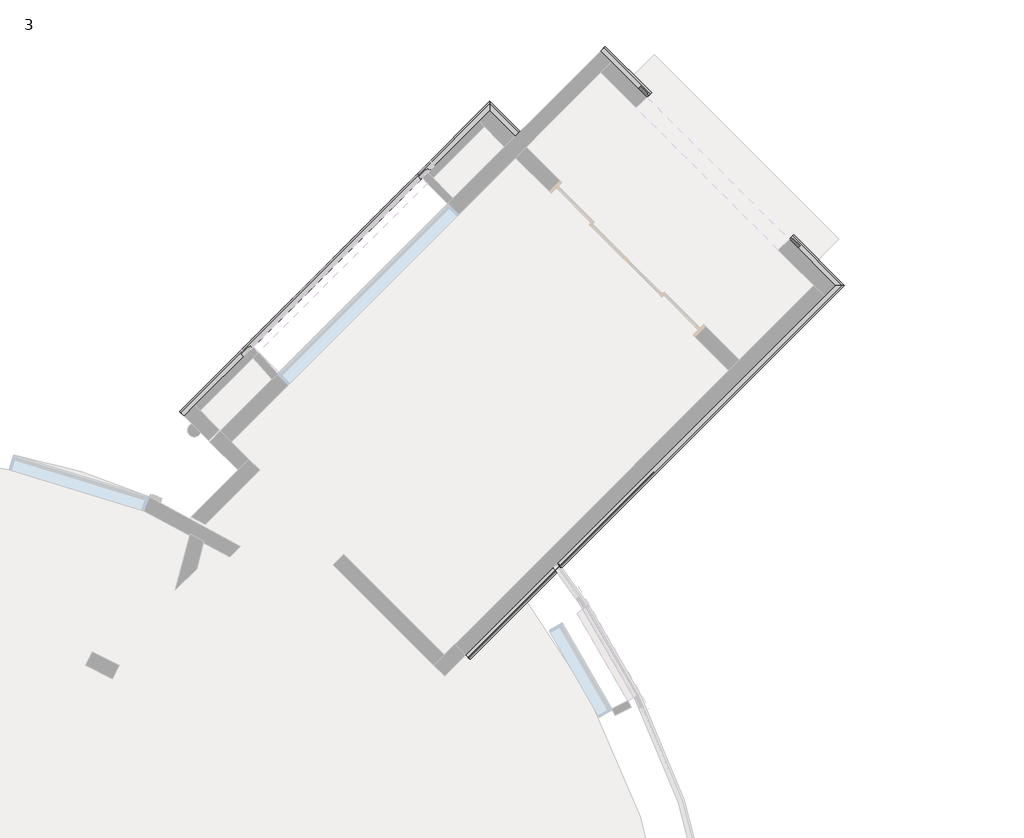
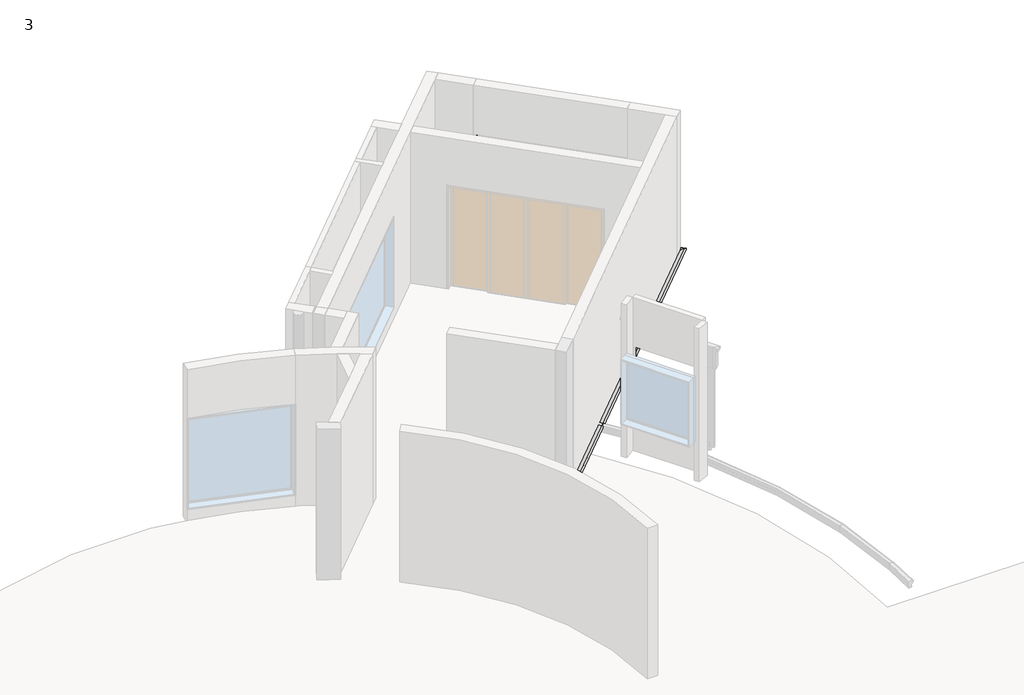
# One storey, part 12 of 12: 3 proxies.
"""IFC4 building model written with IfcOpenShell, lengths in millimetres."""

from ifc_helpers import new_model, si_unit, frame, origin, place, context, project, spatial, polyline, circle_curve, ellipse_curve, outline, extrude, element, save
from ifc_brep_helpers import plane_surface, cylinder_surface, revolved_surface, advanced_brep

model = new_model("IFC4")

# Units and contexts
model_context = context("Model", 3, world=origin())
ifc_project = project(units=[si_unit("LENGTHUNIT", "METRE", prefix="MILLI")], contexts=[model_context])

# Site, building, storey
site = spatial("IfcSite", under=ifc_project)
building = spatial("IfcBuilding", under=site)
storey = spatial("IfcBuildingStorey", under=building, Name="3", Elevation=3581.4)

# Proxies
placement = place(None, origin())
element("IfcBuildingElementProxy", 1, Name="Cornice", ObjectType="Cornice", at=placement, inside=storey, context=model_context, shape_type="SweptSolid", body=[
    extrude(outline(polyline([(2787.1660726, 15309.7245365), (2823.087097, 15345.645561), (2930.8501705, 15237.8824876), (2921.8699144, 15228.9022315), (2944.3205547, 15206.4515912), (2917.3797863, 15179.5108228), (2787.1660726, 15309.7245365)])), frame((0.0, 0.0, 3581.4), z_axis=(0.0, 0.0, 1.0), x_axis=(1.0, 0.0, 0.0)), (0.0, 0.0, 1.0), 2463.8),
])
element("IfcBuildingElementProxy", 2, Name="Cornice", ObjectType="Cornice", at=placement, inside=storey, context=model_context, shape_type="SweptSolid", body=[
    extrude(outline(polyline([(5202.8549691, 12894.03564), (5072.6412554, 13024.2493537), (5099.5820237, 13051.1901221), (5122.032664, 13028.7394818), (5131.0129202, 13037.7197379), (5238.7759936, 12929.9566645), (5202.8549691, 12894.03564)])), frame((0.0, 0.0, 3581.4), z_axis=(0.0, 0.0, 1.0), x_axis=(1.0, 0.0, 0.0)), (0.0, 0.0, 1.0), 2438.4),
])
element("IfcBuildingElementProxy", 3, Name="Cornice 3", ObjectType="Cornice 3", at=placement, inside=storey, context=model_context, shape_type="AdvancedBrep", body=[
    advanced_brep(
    [(5880.8643063, 12323.7893763, 3886.2), (5880.8643063, 12323.7893763, 3841.75), (5880.8643063, 12323.7893763, 3826.7009114), (5855.0460699, 12323.7893763, 3797.3), (5844.9432818, 12323.7893763, 3797.3), (5844.9432818, 12323.7893763, 3771.9), (5844.9432818, 12323.7893763, 3752.85), (5844.9432818, 12323.7893763, 3733.8), (5773.1012328, 12323.7893763, 3733.8), (5773.1012328, 12323.7893763, 3886.2), (223.9513989, 6666.876469, 3886.2), (170.0698622, 6720.7580057, 3886.2), (170.0698622, 6720.7580057, 3733.8), (205.9908867, 6684.8369812, 3733.8), (205.9908867, 6684.8369812, 3752.85), (205.9908867, 6684.8369812, 3771.9), (205.9908867, 6684.8369812, 3797.3), (211.0422808, 6679.7855871, 3797.3), (223.9513989, 6666.876469, 3826.7009114), (223.9513989, 6666.876469, 3841.75)],
    [
        (0, 1, ellipse_curve(frame((5880.8643063, 12323.7893763, 3863.975), z_axis=(0.0, 1.0, 0.0), x_axis=(1.0, 0.0, 0.0)), 31.4308964, 22.225)),
        (1, 2),
        (2, 3, ellipse_curve(frame((5885.4695492, 12323.7893763, 3804.3103895), z_axis=(0.0, -1.0, 0.0), x_axis=(-1.0, 0.0, 0.0)), 31.9981126, 22.6260824)),
        (3, 4),
        (4, 5),
        (5, 6, ellipse_curve(frame((5844.9432818, 12323.7893763, 3762.375), z_axis=(0.0, 1.0, 0.0), x_axis=(1.0, 0.0, 0.0)), 13.4703842, 9.525)),
        (6, 7),
        (7, 8),
        (8, 9),
        (9, 0),
        (10, 11),
        (11, 12),
        (12, 13),
        (13, 14),
        (14, 15, circle_curve(frame((205.9908867, 6684.8369812, 3762.375), z_axis=(-0.7071067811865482, -0.7071067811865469, 0.0), x_axis=(-0.7071067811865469, 0.7071067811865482, 0.0)), 9.525)),
        (15, 16),
        (16, 17),
        (17, 18, circle_curve(frame((226.2540204, 6664.5738475, 3804.3103895), z_axis=(0.7071067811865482, 0.7071067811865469, 0.0), x_axis=(-0.7071067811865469, 0.7071067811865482, 0.0)), 22.6260824)),
        (18, 19),
        (19, 10, circle_curve(frame((223.9513989, 6666.876469, 3863.975), z_axis=(-0.7071067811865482, -0.7071067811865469, 0.0), x_axis=(-0.7071067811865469, 0.7071067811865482, 0.0)), 22.225)),
        (0, 10),
        (19, 1),
        (18, 2),
        (17, 3),
        (16, 4),
        (15, 5),
        (14, 6),
        (13, 7),
        (12, 8),
        (11, 9),
    ],
    [
        plane_surface(frame((5773.1012328, 12323.7893763, 4038.6), z_axis=(0.0, 1.0, 0.0), x_axis=(-1.0, 0.0, 0.0))),
        plane_surface(frame((170.0698622, 6720.7580057, 3560.831793), z_axis=(-0.7071067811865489, -0.7071067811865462, 0.0), x_axis=(0.7071067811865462, -0.7071067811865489, 0.0))),
        cylinder_surface(frame((5826.9827695, 12269.9078396, 3863.975), z_axis=(0.7071067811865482, 0.7071067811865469, 0.0), x_axis=(-0.7071067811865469, 0.7071067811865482, 0.0)), 22.225),
        plane_surface(frame((5880.8643063, 12323.7893763, 3841.75), z_axis=(0.7071067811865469, -0.7071067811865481, 0.0), x_axis=(-0.7071067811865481, -0.7071067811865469, 0.0))),
        revolved_surface(polyline([(210.25496410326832, 6680.5729037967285, 3804.3103895), (5885.469549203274, 12355.787488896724, 3804.3103895)]), (5829.285391, 12267.6052181, 3804.3103895), (-0.7071067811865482, -0.7071067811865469, 0.0)),
        plane_surface(frame((5855.0460699, 12323.7893763, 3797.3), z_axis=(0.0, 0.0, -1.0), x_axis=(-0.7071067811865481, -0.7071067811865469, 0.0))),
        plane_surface(frame((5844.9432818, 12323.7893763, 3797.3), z_axis=(0.7071067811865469, -0.7071067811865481, 0.0), x_axis=(-0.7071067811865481, -0.7071067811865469, 0.0))),
        cylinder_surface(frame((5809.0222573, 12287.8683518, 3762.375), z_axis=(0.7071067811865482, 0.7071067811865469, 0.0), x_axis=(-0.7071067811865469, 0.7071067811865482, 0.0)), 9.525),
        plane_surface(frame((5844.9432818, 12323.7893763, 3752.85), z_axis=(0.7071067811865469, -0.7071067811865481, 0.0), x_axis=(-0.7071067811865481, -0.7071067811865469, 0.0))),
        plane_surface(frame((5844.9432818, 12323.7893763, 3733.8), z_axis=(0.0, 0.0, -1.0000000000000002), x_axis=(-0.7071067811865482, -0.707106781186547, 0.0))),
        plane_surface(frame((5773.1012328, 12323.7893763, 3733.8), z_axis=(-0.7071067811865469, 0.7071067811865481, 0.0), x_axis=(-0.7071067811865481, -0.7071067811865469, 0.0))),
        plane_surface(frame((5773.1012328, 12323.7893763, 3886.2), z_axis=(0.0, 0.0, 1.0), x_axis=(-0.7071067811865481, -0.7071067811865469, 0.0))),
    ],
    [
        (0, [[1, 2, 3, 4, 5, 6, 7, 8, 9, 10]]),
        (1, [[11, 12, 13, 14, 15, 16, 17, 18, 19, 20]]),
        (2, [[-1, 21, -20, 22]]),
        (3, [[-2, -22, -19, 23]]),
        (4, [[-3, -23, -18, 24]]),
        (5, [[-4, -24, -17, 25]]),
        (6, [[-5, -25, -16, 26]]),
        (7, [[-6, -26, -15, 27]]),
        (8, [[-7, -27, -14, 28]]),
        (9, [[-8, -28, -13, 29]]),
        (10, [[-9, -29, -12, 30]]),
        (11, [[-10, -30, -11, -21]]),
    ],
),
    advanced_brep(
    [(5126.5227921, 13078.1308905, 3886.2), (5126.5227921, 13078.1308905, 3841.75), (5126.5227921, 13078.1308905, 3826.7009114), (5113.6136739, 13065.2217723, 3797.3), (5108.5622799, 13060.1703782, 3797.3), (5108.5622799, 13060.1703782, 3771.9), (5108.5622799, 13060.1703782, 3752.85), (5108.5622799, 13060.1703782, 3733.8), (5072.6412554, 13024.2493537, 3733.8), (5072.6412554, 13024.2493537, 3886.2), (5880.8643063, 12323.7893763, 3886.2), (5773.1012328, 12323.7893763, 3886.2), (5773.1012328, 12323.7893763, 3733.8), (5844.9432818, 12323.7893763, 3733.8), (5844.9432818, 12323.7893763, 3752.85), (5844.9432818, 12323.7893763, 3771.9), (5844.9432818, 12323.7893763, 3797.3), (5855.0460699, 12323.7893763, 3797.3), (5880.8643063, 12323.7893763, 3826.7009114), (5880.8643063, 12323.7893763, 3841.75)],
    [
        (0, 1, circle_curve(frame((5126.5227921, 13078.1308905, 3863.975), z_axis=(-0.7071067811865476, 0.7071067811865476, 0.0), x_axis=(-0.7071067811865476, -0.7071067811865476, 0.0)), 22.225)),
        (1, 2),
        (2, 3, circle_curve(frame((5128.8254135, 13080.4335119, 3804.3103895), z_axis=(0.7071067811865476, -0.7071067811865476, 0.0), x_axis=(-0.7071067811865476, -0.7071067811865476, 0.0)), 22.6260824)),
        (3, 4),
        (4, 5),
        (5, 6, circle_curve(frame((5108.5622799, 13060.1703782, 3762.375), z_axis=(-0.7071067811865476, 0.7071067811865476, 0.0), x_axis=(-0.7071067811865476, -0.7071067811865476, 0.0)), 9.525)),
        (6, 7),
        (7, 8),
        (8, 9),
        (9, 0),
        (10, 11),
        (11, 12),
        (12, 13),
        (13, 14),
        (14, 15, ellipse_curve(frame((5844.9432818, 12323.7893763, 3762.375), z_axis=(0.0, -1.0, 0.0), x_axis=(-1.0, 0.0, 0.0)), 13.4703842, 9.525)),
        (15, 16),
        (16, 17),
        (17, 18, ellipse_curve(frame((5885.4695492, 12323.7893763, 3804.3103895), z_axis=(0.0, 1.0, 0.0), x_axis=(1.0, 0.0, 0.0)), 31.9981126, 22.6260824)),
        (18, 19),
        (19, 10, ellipse_curve(frame((5880.8643063, 12323.7893763, 3863.975), z_axis=(0.0, -1.0, 0.0), x_axis=(-1.0, 0.0, 0.0)), 31.4308964, 22.225)),
        (0, 10),
        (19, 1),
        (18, 2),
        (17, 3),
        (16, 4),
        (15, 5),
        (14, 6),
        (13, 7),
        (12, 8),
        (11, 9),
    ],
    [
        plane_surface(frame((5072.6412554, 13024.2493537, 3560.831793), z_axis=(-0.7071067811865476, 0.7071067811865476, 0.0), x_axis=(0.7071067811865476, 0.7071067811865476, 0.0))),
        plane_surface(frame((5773.1012328, 12323.7893763, 4038.6), z_axis=(0.0, -1.0, 0.0), x_axis=(-1.0, 0.0, 0.0))),
        cylinder_surface(frame((5126.5227921, 13078.1308905, 3863.975), z_axis=(-0.7071067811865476, 0.7071067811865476, 0.0), x_axis=(-0.7071067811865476, -0.7071067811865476, 0.0)), 22.225),
        plane_surface(frame((5126.5227921, 13078.1308905, 3841.75), z_axis=(0.7071067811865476, 0.7071067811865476, 0.0), x_axis=(0.7071067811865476, -0.7071067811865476, 0.0))),
        revolved_surface(polyline([(5885.469549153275, 12291.791263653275, 3804.3103895), (5112.826357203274, 13064.434455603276, 3804.3103895)]), (5128.8254135, 13080.4335119, 3804.3103895), (0.7071067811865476, -0.7071067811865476, 0.0)),
        plane_surface(frame((5113.6136739, 13065.2217723, 3797.3), z_axis=(0.0, 0.0, -1.0000000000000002), x_axis=(0.7071067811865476, -0.7071067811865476, 0.0))),
        plane_surface(frame((5108.5622799, 13060.1703782, 3797.3), z_axis=(0.7071067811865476, 0.7071067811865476, 0.0), x_axis=(0.7071067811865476, -0.7071067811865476, 0.0))),
        cylinder_surface(frame((5108.5622799, 13060.1703782, 3762.375), z_axis=(-0.7071067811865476, 0.7071067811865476, 0.0), x_axis=(-0.7071067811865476, -0.7071067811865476, 0.0)), 9.525),
        plane_surface(frame((5108.5622799, 13060.1703782, 3752.85), z_axis=(0.7071067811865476, 0.7071067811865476, 0.0), x_axis=(0.7071067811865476, -0.7071067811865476, 0.0))),
        plane_surface(frame((5108.5622799, 13060.1703782, 3733.8), z_axis=(0.0, 0.0, -1.0), x_axis=(0.7071067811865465, -0.7071067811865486, 0.0))),
        plane_surface(frame((5072.6412554, 13024.2493537, 3733.8), z_axis=(-0.7071067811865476, -0.7071067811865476, 0.0), x_axis=(0.7071067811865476, -0.7071067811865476, 0.0))),
        plane_surface(frame((5072.6412554, 13024.2493537, 3886.2), z_axis=(0.0, 0.0, 1.0000000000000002), x_axis=(0.7071067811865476, -0.7071067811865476, 0.0))),
    ],
    [
        (0, [[1, 2, 3, 4, 5, 6, 7, 8, 9, 10]]),
        (1, [[11, 12, 13, 14, 15, 16, 17, 18, 19, 20]]),
        (2, [[-1, 21, -20, 22]]),
        (3, [[-2, -22, -19, 23]]),
        (4, [[-3, -23, -18, 24]]),
        (5, [[-4, -24, -17, 25]]),
        (6, [[-5, -25, -16, 26]]),
        (7, [[-6, -26, -15, 27]]),
        (8, [[-7, -27, -14, 28]]),
        (9, [[-8, -28, -13, 29]]),
        (10, [[-9, -29, -12, 30]]),
        (11, [[-10, -30, -11, -21]]),
    ],
),
    advanced_brep(
    [(2270.8013456, 15933.852337, 3886.2), (2270.8013456, 15933.852337, 3841.75), (2270.8013456, 15933.852337, 3826.7009114), (2257.8922274, 15920.9432188, 3797.3), (2252.8408334, 15915.8918247, 3797.3), (2252.8408334, 15915.8918247, 3771.9), (2252.8408334, 15915.8918247, 3752.85), (2252.8408334, 15915.8918247, 3733.8), (2216.9198089, 15879.9708002, 3733.8), (2216.9198089, 15879.9708002, 3886.2), (2971.261323, 15233.3923595, 3886.2), (2917.3797863, 15179.5108228, 3886.2), (2917.3797863, 15179.5108228, 3733.8), (2953.3008108, 15215.4318473, 3733.8), (2953.3008108, 15215.4318473, 3752.85), (2953.3008108, 15215.4318473, 3771.9), (2953.3008108, 15215.4318473, 3797.3), (2958.3522049, 15220.4832413, 3797.3), (2971.261323, 15233.3923595, 3826.7009114), (2971.261323, 15233.3923595, 3841.75)],
    [
        (0, 1, circle_curve(frame((2270.8013456, 15933.852337, 3863.975), z_axis=(-0.7071067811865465, 0.7071067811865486, 0.0), x_axis=(-0.7071067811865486, -0.7071067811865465, 0.0)), 22.225)),
        (1, 2),
        (2, 3, circle_curve(frame((2273.103967, 15936.1549584, 3804.3103895), z_axis=(0.7071067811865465, -0.7071067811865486, 0.0), x_axis=(-0.7071067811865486, -0.7071067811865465, 0.0)), 22.6260824)),
        (3, 4),
        (4, 5),
        (5, 6, circle_curve(frame((2252.8408334, 15915.8918247, 3762.375), z_axis=(-0.7071067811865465, 0.7071067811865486, 0.0), x_axis=(-0.7071067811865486, -0.7071067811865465, 0.0)), 9.525)),
        (6, 7),
        (7, 8),
        (8, 9),
        (9, 0),
        (10, 11),
        (11, 12),
        (12, 13),
        (13, 14),
        (14, 15, circle_curve(frame((2953.3008108, 15215.4318473, 3762.375), z_axis=(0.7071067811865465, -0.7071067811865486, 0.0), x_axis=(-0.7071067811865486, -0.7071067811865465, 0.0)), 9.525)),
        (15, 16),
        (16, 17),
        (17, 18, circle_curve(frame((2973.5639445, 15235.694981, 3804.3103895), z_axis=(-0.7071067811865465, 0.7071067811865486, 0.0), x_axis=(-0.7071067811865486, -0.7071067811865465, 0.0)), 22.6260824)),
        (18, 19),
        (19, 10, circle_curve(frame((2971.261323, 15233.3923595, 3863.975), z_axis=(0.7071067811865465, -0.7071067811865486, 0.0), x_axis=(-0.7071067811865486, -0.7071067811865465, 0.0)), 22.225)),
        (0, 10),
        (19, 1),
        (18, 2),
        (17, 3),
        (16, 4),
        (15, 5),
        (14, 6),
        (13, 7),
        (12, 8),
        (11, 9),
    ],
    [
        plane_surface(frame((2216.9198089, 15879.9708002, 3560.831793), z_axis=(-0.7071067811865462, 0.7071067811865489, 0.0), x_axis=(0.7071067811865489, 0.7071067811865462, 0.0))),
        plane_surface(frame((2917.3797863, 15179.5108228, 3560.831793), z_axis=(0.7071067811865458, -0.7071067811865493, 0.0), x_axis=(0.7071067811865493, 0.7071067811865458, 0.0))),
        cylinder_surface(frame((2270.8013456, 15933.852337, 3863.975), z_axis=(-0.7071067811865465, 0.7071067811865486, 0.0), x_axis=(-0.7071067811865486, -0.7071067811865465, 0.0)), 22.225),
        plane_surface(frame((2270.8013456, 15933.852337, 3841.75), z_axis=(0.7071067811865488, 0.7071067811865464, 0.0), x_axis=(0.7071067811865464, -0.7071067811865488, 0.0))),
        revolved_surface(polyline([(2957.5648882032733, 15219.695924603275, 3804.3103895), (2257.1049107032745, 15920.155902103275, 3804.3103895)]), (2273.103967, 15936.1549584, 3804.3103895), (0.7071067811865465, -0.7071067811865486, 0.0)),
        plane_surface(frame((2257.8922274, 15920.9432188, 3797.3), z_axis=(0.0, 0.0, -1.0), x_axis=(0.7071067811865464, -0.7071067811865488, 0.0))),
        plane_surface(frame((2252.8408334, 15915.8918247, 3797.3), z_axis=(0.7071067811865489, 0.7071067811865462, 0.0), x_axis=(0.7071067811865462, -0.7071067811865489, 0.0))),
        cylinder_surface(frame((2252.8408334, 15915.8918247, 3762.375), z_axis=(-0.7071067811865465, 0.7071067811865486, 0.0), x_axis=(-0.7071067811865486, -0.7071067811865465, 0.0)), 9.525),
        plane_surface(frame((2252.8408334, 15915.8918247, 3752.85), z_axis=(0.7071067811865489, 0.7071067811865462, 0.0), x_axis=(0.7071067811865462, -0.7071067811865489, 0.0))),
        plane_surface(frame((2252.8408334, 15915.8918247, 3733.8), z_axis=(0.0, 0.0, -1.0000000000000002), x_axis=(0.7071067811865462, -0.7071067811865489, 0.0))),
        plane_surface(frame((2216.9198089, 15879.9708002, 3733.8), z_axis=(-0.7071067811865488, -0.7071067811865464, 0.0), x_axis=(0.7071067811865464, -0.7071067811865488, 0.0))),
        plane_surface(frame((2216.9198089, 15879.9708002, 3886.2), z_axis=(0.0, 0.0, 1.0), x_axis=(0.7071067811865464, -0.7071067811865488, 0.0))),
    ],
    [
        (0, [[1, 2, 3, 4, 5, 6, 7, 8, 9, 10]]),
        (1, [[11, 12, 13, 14, 15, 16, 17, 18, 19, 20]]),
        (2, [[-1, 21, -20, 22]]),
        (3, [[-2, -22, -19, 23]]),
        (4, [[-3, -23, -18, 24]]),
        (5, [[-4, -24, -17, 25]]),
        (6, [[-5, -25, -16, 26]]),
        (7, [[-6, -26, -15, 27]]),
        (8, [[-7, -27, -14, 28]]),
        (9, [[-8, -28, -13, 29]]),
        (10, [[-9, -29, -12, 30]]),
        (11, [[-10, -30, -11, -21]]),
    ],
),
    advanced_brep(
    [(-544.0097939, 14009.0370028, 3886.2), (-544.0097939, 14009.0370028, 3841.75), (-544.0097939, 14009.0370028, 3826.7009114), (-531.1006757, 13996.1278846, 3797.3), (-526.0492816, 13991.0764906, 3797.3), (-526.0492816, 13991.0764906, 3771.9), (-526.0492816, 13991.0764906, 3752.85), (-526.0492816, 13991.0764906, 3733.8), (-490.1282571, 13955.1554661, 3733.8), (-490.1282571, 13955.1554661, 3886.2), (533.6209407, 15086.6677373, 3886.2), (533.6209407, 14978.9046639, 3886.2), (533.6209407, 14978.9046639, 3733.8), (533.6209407, 15050.7467128, 3733.8), (533.6209407, 15050.7467128, 3752.85), (533.6209407, 15050.7467128, 3771.9), (533.6209407, 15050.7467128, 3797.3), (533.6209407, 15060.849501, 3797.3), (533.6209407, 15086.6677373, 3826.7009114), (533.6209407, 15086.6677373, 3841.75)],
    [
        (0, 1, circle_curve(frame((-544.0097939, 14009.0370028, 3863.975), z_axis=(-0.7071067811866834, -0.7071067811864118, 0.0), x_axis=(0.7071067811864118, -0.7071067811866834, 0.0)), 22.225)),
        (1, 2),
        (2, 3, circle_curve(frame((-546.3124153, 14011.3396242, 3804.3103895), z_axis=(0.7071067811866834, 0.7071067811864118, 0.0), x_axis=(0.7071067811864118, -0.7071067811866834, 0.0)), 22.6260824)),
        (3, 4),
        (4, 5),
        (5, 6, circle_curve(frame((-526.0492816, 13991.0764906, 3762.375), z_axis=(-0.7071067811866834, -0.7071067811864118, 0.0), x_axis=(0.7071067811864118, -0.7071067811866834, 0.0)), 9.525)),
        (6, 7),
        (7, 8),
        (8, 9),
        (9, 0),
        (10, 11),
        (11, 12),
        (12, 13),
        (13, 14),
        (14, 15, ellipse_curve(frame((533.6209407, 15050.7467128, 3762.375), z_axis=(1.0, 0.0, 0.0), x_axis=(0.0, -1.0, 0.0)), 13.4703842, 9.525)),
        (15, 16),
        (16, 17),
        (17, 18, ellipse_curve(frame((533.6209407, 15091.2729802, 3804.3103895), z_axis=(-1.0, 0.0, 0.0), x_axis=(0.0, 1.0, 0.0)), 31.9981126, 22.6260824)),
        (18, 19),
        (19, 10, ellipse_curve(frame((533.6209407, 15086.6677373, 3863.975), z_axis=(1.0, 0.0, 0.0), x_axis=(0.0, -1.0, 0.0)), 31.4308964, 22.225)),
        (0, 10),
        (19, 1),
        (18, 2),
        (17, 3),
        (16, 4),
        (15, 5),
        (14, 6),
        (13, 7),
        (12, 8),
        (11, 9),
    ],
    [
        plane_surface(frame((-490.1282571, 13955.1554661, 3906.768207), z_axis=(-0.7071067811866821, -0.7071067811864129, 0.0), x_axis=(0.7071067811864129, -0.7071067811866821, 0.0))),
        plane_surface(frame((533.6209407, 14978.9046639, 4038.6), z_axis=(1.0, 0.0, 0.0), x_axis=(0.0, -1.0, 0.0))),
        cylinder_surface(frame((-544.0097939, 14009.0370028, 3863.975), z_axis=(-0.7071067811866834, -0.7071067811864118, 0.0), x_axis=(0.7071067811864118, -0.7071067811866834, 0.0)), 22.225),
        plane_surface(frame((-544.0097939, 14009.0370028, 3841.75), z_axis=(-0.707106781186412, 0.707106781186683, 0.0), x_axis=(0.707106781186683, 0.707106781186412, 0.0))),
        revolved_surface(polyline([(565.6190532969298, 15091.272980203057, 3804.3103895), (-530.3133590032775, 13995.340567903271, 3804.3103895)]), (-546.3124153, 14011.3396242, 3804.3103895), (0.7071067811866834, 0.7071067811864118, 0.0)),
        plane_surface(frame((-531.1006757, 13996.1278846, 3797.3), z_axis=(0.0, 0.0, -1.0), x_axis=(0.7071067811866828, 0.7071067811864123, 0.0))),
        plane_surface(frame((-526.0492816, 13991.0764906, 3797.3), z_axis=(-0.7071067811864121, 0.707106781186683, 0.0), x_axis=(0.707106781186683, 0.7071067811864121, 0.0))),
        cylinder_surface(frame((-526.0492816, 13991.0764906, 3762.375), z_axis=(-0.7071067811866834, -0.7071067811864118, 0.0), x_axis=(0.7071067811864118, -0.7071067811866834, 0.0)), 9.525),
        plane_surface(frame((-526.0492816, 13991.0764906, 3752.85), z_axis=(-0.7071067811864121, 0.707106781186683, 0.0), x_axis=(0.707106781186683, 0.7071067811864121, 0.0))),
        plane_surface(frame((-526.0492816, 13991.0764906, 3733.8), z_axis=(0.0, 0.0, -1.0), x_axis=(0.7071067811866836, 0.7071067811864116, 0.0))),
        plane_surface(frame((-490.1282571, 13955.1554661, 3733.8), z_axis=(0.7071067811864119, -0.7071067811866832, 0.0), x_axis=(0.7071067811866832, 0.7071067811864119, 0.0))),
        plane_surface(frame((-490.1282571, 13955.1554661, 3886.2), z_axis=(0.0, 0.0, 1.0000000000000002), x_axis=(0.7071067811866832, 0.7071067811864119, 0.0))),
    ],
    [
        (0, [[1, 2, 3, 4, 5, 6, 7, 8, 9, 10]]),
        (1, [[11, 12, 13, 14, 15, 16, 17, 18, 19, 20]]),
        (2, [[-1, 21, -20, 22]]),
        (3, [[-2, -22, -19, 23]]),
        (4, [[-3, -23, -18, 24]]),
        (5, [[-4, -24, -17, 25]]),
        (6, [[-5, -25, -16, 26]]),
        (7, [[-6, -26, -15, 27]]),
        (8, [[-7, -27, -14, 28]]),
        (9, [[-8, -28, -13, 29]]),
        (10, [[-9, -29, -12, 30]]),
        (11, [[-10, -30, -11, -21]]),
    ],
),
    advanced_brep(
    [(533.6209407, 15086.6677373, 3886.2), (533.6209407, 15086.6677373, 3841.75), (533.6209407, 15086.6677373, 3826.7009114), (533.6209407, 15060.849501, 3797.3), (533.6209407, 15050.7467128, 3797.3), (533.6209407, 15050.7467128, 3771.9), (533.6209407, 15050.7467128, 3752.85), (533.6209407, 15050.7467128, 3733.8), (533.6209407, 14978.9046639, 3733.8), (533.6209407, 14978.9046639, 3886.2), (978.6188433, 14641.6698347, 3886.2), (924.7373066, 14587.788298, 3886.2), (924.7373066, 14587.788298, 3733.8), (960.6583311, 14623.7093224, 3733.8), (960.6583311, 14623.7093224, 3752.85), (960.6583311, 14623.7093224, 3771.9), (960.6583311, 14623.7093224, 3797.3), (965.7097251, 14628.7607165, 3797.3), (978.6188433, 14641.6698347, 3826.7009114), (978.6188433, 14641.6698347, 3841.75)],
    [
        (0, 1, ellipse_curve(frame((533.6209407, 15086.6677373, 3863.975), z_axis=(-1.0, 0.0, 0.0), x_axis=(0.0, 1.0, 0.0)), 31.4308964, 22.225)),
        (1, 2),
        (2, 3, ellipse_curve(frame((533.6209407, 15091.2729802, 3804.3103895), z_axis=(1.0, 0.0, 0.0), x_axis=(0.0, -1.0, 0.0)), 31.9981126, 22.6260824)),
        (3, 4),
        (4, 5),
        (5, 6, ellipse_curve(frame((533.6209407, 15050.7467128, 3762.375), z_axis=(-1.0, 0.0, 0.0), x_axis=(0.0, 1.0, 0.0)), 13.4703842, 9.525)),
        (6, 7),
        (7, 8),
        (8, 9),
        (9, 0),
        (10, 11),
        (11, 12),
        (12, 13),
        (13, 14),
        (14, 15, circle_curve(frame((960.6583311, 14623.7093224, 3762.375), z_axis=(0.7071067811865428, -0.7071067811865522, 0.0), x_axis=(-0.7071067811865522, -0.7071067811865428, 0.0)), 9.525)),
        (15, 16),
        (16, 17),
        (17, 18, circle_curve(frame((980.9214648, 14643.9724561, 3804.3103895), z_axis=(-0.7071067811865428, 0.7071067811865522, 0.0), x_axis=(-0.7071067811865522, -0.7071067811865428, 0.0)), 22.6260824)),
        (18, 19),
        (19, 10, circle_curve(frame((978.6188433, 14641.6698347, 3863.975), z_axis=(0.7071067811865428, -0.7071067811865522, 0.0), x_axis=(-0.7071067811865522, -0.7071067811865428, 0.0)), 22.225)),
        (0, 10),
        (19, 1),
        (18, 2),
        (17, 3),
        (16, 4),
        (15, 5),
        (14, 6),
        (13, 7),
        (12, 8),
        (11, 9),
    ],
    [
        plane_surface(frame((533.6209407, 14978.9046639, 4038.6), z_axis=(-1.0, 0.0, 0.0), x_axis=(0.0, -1.0, 0.0))),
        plane_surface(frame((924.7373066, 14587.788298, 3560.831793), z_axis=(0.7071067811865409, -0.7071067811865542, 0.0), x_axis=(0.7071067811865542, 0.7071067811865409, 0.0))),
        cylinder_surface(frame((587.5024774, 15032.7862006, 3863.975), z_axis=(-0.7071067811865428, 0.7071067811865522, 0.0), x_axis=(-0.7071067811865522, -0.7071067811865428, 0.0)), 22.225),
        plane_surface(frame((533.6209407, 15086.6677373, 3841.75), z_axis=(0.7071067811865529, 0.7071067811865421, 0.0), x_axis=(0.7071067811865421, -0.7071067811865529, 0.0))),
        revolved_surface(polyline([(964.9224085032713, 14627.973399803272, 3804.3103895), (501.6228281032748, 15091.272980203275, 3804.3103895)]), (589.8050989, 15035.088822, 3804.3103895), (0.7071067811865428, -0.7071067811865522, 0.0)),
        plane_surface(frame((533.6209407, 15060.849501, 3797.3), z_axis=(0.0, 0.0, -1.0), x_axis=(0.7071067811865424, -0.7071067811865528, 0.0))),
        plane_surface(frame((533.6209407, 15050.7467128, 3797.3), z_axis=(0.7071067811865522, 0.7071067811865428, 0.0), x_axis=(0.7071067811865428, -0.7071067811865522, 0.0))),
        cylinder_surface(frame((569.5419652, 15014.8256884, 3762.375), z_axis=(-0.7071067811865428, 0.7071067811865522, 0.0), x_axis=(-0.7071067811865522, -0.7071067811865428, 0.0)), 9.525),
        plane_surface(frame((533.6209407, 15050.7467128, 3752.85), z_axis=(0.7071067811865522, 0.7071067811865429, 0.0), x_axis=(0.7071067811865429, -0.7071067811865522, 0.0))),
        plane_surface(frame((533.6209407, 15050.7467128, 3733.8), z_axis=(0.0, 0.0, -1.0), x_axis=(0.7071067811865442, -0.7071067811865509, 0.0))),
        plane_surface(frame((533.6209407, 14978.9046639, 3733.8), z_axis=(-0.7071067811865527, -0.7071067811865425, 0.0), x_axis=(0.7071067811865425, -0.7071067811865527, 0.0))),
        plane_surface(frame((533.6209407, 14978.9046639, 3886.2), z_axis=(0.0, 0.0, 1.0000000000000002), x_axis=(0.7071067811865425, -0.7071067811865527, 0.0))),
    ],
    [
        (0, [[1, 2, 3, 4, 5, 6, 7, 8, 9, 10]]),
        (1, [[11, 12, 13, 14, 15, 16, 17, 18, 19, 20]]),
        (2, [[-1, 21, -20, 22]]),
        (3, [[-2, -22, -19, 23]]),
        (4, [[-3, -23, -18, 24]]),
        (5, [[-4, -24, -17, 25]]),
        (6, [[-5, -25, -16, 26]]),
        (7, [[-6, -26, -15, 27]]),
        (8, [[-7, -27, -14, 28]]),
        (9, [[-8, -28, -13, 29]]),
        (10, [[-9, -29, -12, 30]]),
        (11, [[-10, -30, -11, -21]]),
    ],
),
    advanced_brep(
    [(-4153.109705, 10399.9370917, 3886.2), (-4153.109705, 10399.9370917, 3841.75), (-4153.109705, 10399.9370917, 3826.7009114), (-4140.2005868, 10387.0279735, 3797.3), (-4135.1491927, 10381.9765794, 3797.3), (-4135.1491927, 10381.9765794, 3771.9), (-4135.1491927, 10381.9765794, 3752.85), (-4135.1491927, 10381.9765794, 3733.8), (-4099.2281682, 10346.055555, 3733.8), (-4099.2281682, 10346.055555, 3886.2), (-521.3389368, 14031.7078598, 3886.2), (-467.4574001, 13977.8263231, 3886.2), (-467.4574001, 13977.8263231, 3733.8), (-503.3784246, 14013.7473476, 3733.8), (-503.3784246, 14013.7473476, 3752.85), (-503.3784246, 14013.7473476, 3771.9), (-503.3784246, 14013.7473476, 3797.3), (-508.4298187, 14018.7987416, 3797.3), (-521.3389368, 14031.7078598, 3826.7009114), (-521.3389368, 14031.7078598, 3841.75)],
    [
        (0, 1, circle_curve(frame((-4153.109705, 10399.9370917, 3863.975), z_axis=(-0.7071067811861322, -0.7071067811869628, 0.0), x_axis=(0.7071067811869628, -0.7071067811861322, 0.0)), 22.225)),
        (1, 2),
        (2, 3, circle_curve(frame((-4155.4123264, 10402.2397131, 3804.3103895), z_axis=(0.7071067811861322, 0.7071067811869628, 0.0), x_axis=(0.7071067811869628, -0.7071067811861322, 0.0)), 22.6260824)),
        (3, 4),
        (4, 5),
        (5, 6, circle_curve(frame((-4135.1491927, 10381.9765794, 3762.375), z_axis=(-0.7071067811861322, -0.7071067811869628, 0.0), x_axis=(0.7071067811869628, -0.7071067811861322, 0.0)), 9.525)),
        (6, 7),
        (7, 8),
        (8, 9),
        (9, 0),
        (10, 11),
        (11, 12),
        (12, 13),
        (13, 14),
        (14, 15, circle_curve(frame((-503.3784246, 14013.7473476, 3762.375), z_axis=(0.7071067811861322, 0.7071067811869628, 0.0), x_axis=(0.7071067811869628, -0.7071067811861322, 0.0)), 9.525)),
        (15, 16),
        (16, 17),
        (17, 18, circle_curve(frame((-523.6415583, 14034.0104813, 3804.3103895), z_axis=(-0.7071067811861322, -0.7071067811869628, 0.0), x_axis=(0.7071067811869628, -0.7071067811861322, 0.0)), 22.6260824)),
        (18, 19),
        (19, 10, circle_curve(frame((-521.3389368, 14031.7078598, 3863.975), z_axis=(0.7071067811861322, 0.7071067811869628, 0.0), x_axis=(0.7071067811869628, -0.7071067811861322, 0.0)), 22.225)),
        (0, 10),
        (19, 1),
        (18, 2),
        (17, 3),
        (16, 4),
        (15, 5),
        (14, 6),
        (13, 7),
        (12, 8),
        (11, 9),
    ],
    [
        plane_surface(frame((-4099.2281682, 10346.055555, 3906.768207), z_axis=(-0.7071067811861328, -0.7071067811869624, 0.0), x_axis=(0.7071067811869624, -0.7071067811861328, 0.0))),
        plane_surface(frame((-467.4574001, 13977.8263231, 3906.768207), z_axis=(0.707106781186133, 0.7071067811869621, 0.0), x_axis=(0.7071067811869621, -0.707106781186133, 0.0))),
        cylinder_surface(frame((-4153.109705, 10399.9370917, 3863.975), z_axis=(-0.7071067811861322, -0.7071067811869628, 0.0), x_axis=(0.7071067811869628, -0.7071067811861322, 0.0)), 22.225),
        plane_surface(frame((-4153.109705, 10399.9370917, 3841.75), z_axis=(-0.7071067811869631, 0.707106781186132, 0.0), x_axis=(0.707106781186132, 0.7071067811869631, 0.0))),
        revolved_surface(polyline([(-507.6425019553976, 14018.011424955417, 3804.3103895), (-4139.413270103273, 10386.240656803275, 3804.3103895)]), (-4155.4123264, 10402.2397131, 3804.3103895), (0.7071067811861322, 0.7071067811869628, 0.0)),
        plane_surface(frame((-4140.2005868, 10387.0279735, 3797.3), z_axis=(0.0, 0.0, -1.0), x_axis=(0.7071067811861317, 0.7071067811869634, 0.0))),
        plane_surface(frame((-4135.1491927, 10381.9765794, 3797.3), z_axis=(-0.707106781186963, 0.707106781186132, 0.0), x_axis=(0.707106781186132, 0.707106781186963, 0.0))),
        cylinder_surface(frame((-4135.1491927, 10381.9765794, 3762.375), z_axis=(-0.7071067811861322, -0.7071067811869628, 0.0), x_axis=(0.7071067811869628, -0.7071067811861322, 0.0)), 9.525),
        plane_surface(frame((-4135.1491927, 10381.9765794, 3752.85), z_axis=(-0.707106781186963, 0.707106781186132, 0.0), x_axis=(0.707106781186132, 0.707106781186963, 0.0))),
        plane_surface(frame((-4135.1491927, 10381.9765794, 3733.8), z_axis=(0.0, 0.0, -1.0), x_axis=(0.707106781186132, 0.707106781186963, 0.0))),
        plane_surface(frame((-4099.2281682, 10346.055555, 3733.8), z_axis=(0.707106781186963, -0.707106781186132, 0.0), x_axis=(0.707106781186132, 0.707106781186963, 0.0))),
        plane_surface(frame((-4099.2281682, 10346.055555, 3886.2), z_axis=(0.0, 0.0, 1.0), x_axis=(0.707106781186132, 0.707106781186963, 0.0))),
    ],
    [
        (0, [[1, 2, 3, 4, 5, 6, 7, 8, 9, 10]]),
        (1, [[11, 12, 13, 14, 15, 16, 17, 18, 19, 20]]),
        (2, [[-1, 21, -20, 22]]),
        (3, [[-2, -22, -19, 23]]),
        (4, [[-3, -23, -18, 24]]),
        (5, [[-4, -24, -17, 25]]),
        (6, [[-5, -25, -16, 26]]),
        (7, [[-6, -26, -15, 27]]),
        (8, [[-7, -27, -14, 28]]),
        (9, [[-8, -28, -13, 29]]),
        (10, [[-9, -29, -12, 30]]),
        (11, [[-10, -30, -11, -21]]),
    ],
),
])

save(model, "model.ifc")
